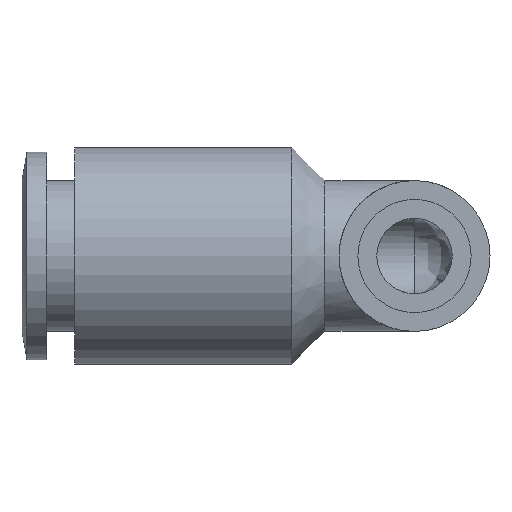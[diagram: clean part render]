
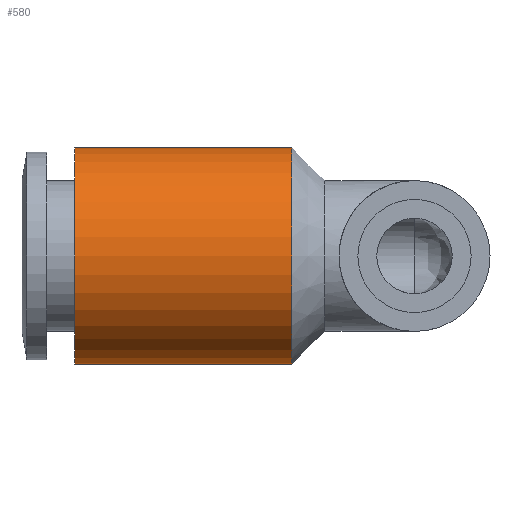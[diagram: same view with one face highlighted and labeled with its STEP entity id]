
A CAD part, left-side view. The second image highlights one B-rep face of the part: STEP entity #580.
In plain terms, the highlighted cylindrical face has radius 5.75 mm (diameter 11.5 mm), a full revolution.
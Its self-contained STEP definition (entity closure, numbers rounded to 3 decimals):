
#546=CARTESIAN_POINT('',(-5.75,6.5,0.0));
#547=VERTEX_POINT('',#546);
#548=CARTESIAN_POINT('',(0.0,6.5,0.0));
#549=DIRECTION('',(0.0,1.0,0.0));
#550=DIRECTION('',(-1.0,0.0,0.0));
#551=AXIS2_PLACEMENT_3D('',#548,#549,#550);
#552=CIRCLE('',#551,5.75);
#553=EDGE_CURVE('',#547,#547,#552,.T.);
#561=CARTESIAN_POINT('',(0.0,12.25,0.0));
#562=DIRECTION('',(0.0,1.0,0.0));
#563=DIRECTION('',(-1.0,0.0,0.0));
#564=AXIS2_PLACEMENT_3D('',#561,#562,#563);
#565=CYLINDRICAL_SURFACE('',#564,5.75);
#566=CARTESIAN_POINT('',(-5.75,18.0,0.0));
#567=VERTEX_POINT('',#566);
#568=CARTESIAN_POINT('',(0.0,18.0,0.0));
#569=DIRECTION('',(0.0,1.0,0.0));
#570=DIRECTION('',(-1.0,0.0,0.0));
#571=AXIS2_PLACEMENT_3D('',#568,#569,#570);
#572=CIRCLE('',#571,5.75);
#573=EDGE_CURVE('',#567,#567,#572,.T.);
#574=ORIENTED_EDGE('',*,*,#573,.F.);
#575=EDGE_LOOP('',(#574));
#576=FACE_OUTER_BOUND('',#575,.T.);
#577=ORIENTED_EDGE('',*,*,#553,.T.);
#578=EDGE_LOOP('',(#577));
#579=FACE_BOUND('',#578,.T.);
#580=ADVANCED_FACE('',(#576,#579),#565,.T.);
